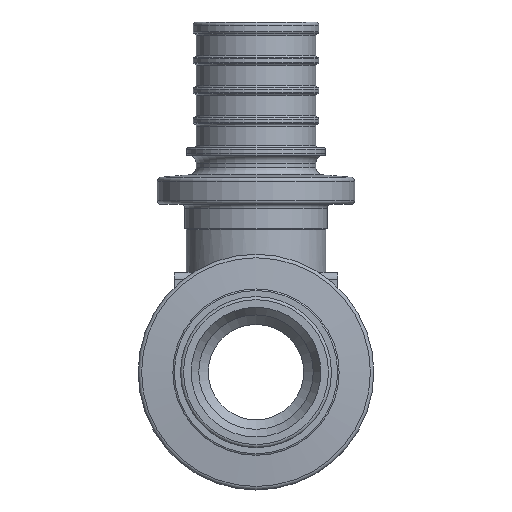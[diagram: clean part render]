
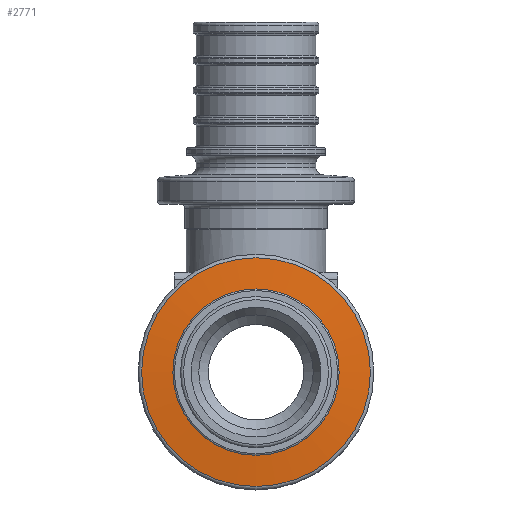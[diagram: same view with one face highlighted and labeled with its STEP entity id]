
A CAD part, front view. The second image highlights one B-rep face of the part: STEP entity #2771.
In plain terms, the highlighted conical face has half-angle 85 degrees and reference radius 12.653 mm.
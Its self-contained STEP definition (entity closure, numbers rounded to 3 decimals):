
#2771=ADVANCED_FACE('',(#6223,#6225),#6227,.T.);
#6223=FACE_BOUND('',#6224,.T.);
#6224=EDGE_LOOP('',(#9270,#9271));
#6225=FACE_OUTER_BOUND('',#6226,.T.);
#6226=EDGE_LOOP('',(#9272));
#6227=CONICAL_SURFACE('',#6228,12.653,1.484);
#6228=AXIS2_PLACEMENT_3D('',#6229,#6230,#6231);
#6229=CARTESIAN_POINT('',(0.,-24.195,0.));
#6230=DIRECTION('',(0.,1.,0.));
#6231=DIRECTION('',(0.,0.,-1.));
#9270=ORIENTED_EDGE('',*,*,#10329,.T.);
#9271=ORIENTED_EDGE('',*,*,#10330,.T.);
#9272=ORIENTED_EDGE('',*,*,#10326,.T.);
#10326=EDGE_CURVE('',#11814,#11814,#11815,.T.);
#10329=EDGE_CURVE('',#11820,#11821,#11822,.F.);
#10330=EDGE_CURVE('',#11821,#11820,#11823,.F.);
#11814=VERTEX_POINT('',#15891);
#11815=CIRCLE('',#15892,14.994);
#11820=VERTEX_POINT('',#15906);
#11821=VERTEX_POINT('',#15907);
#11822=CIRCLE('',#15908,10.313);
#11823=CIRCLE('',#15912,10.313);
#15891=CARTESIAN_POINT('',(0.,-23.99,14.994));
#15892=AXIS2_PLACEMENT_3D('',#15893,#15894,#15895);
#15893=CARTESIAN_POINT('',(0.,-23.99,0.));
#15894=DIRECTION('',(0.,-1.,0.));
#15895=DIRECTION('',(0.,0.,1.));
#15906=CARTESIAN_POINT('',(10.313,-24.399,0.));
#15907=CARTESIAN_POINT('',(0.,-24.399,10.313));
#15908=AXIS2_PLACEMENT_3D('',#15909,#15910,#15911);
#15909=CARTESIAN_POINT('',(0.,-24.399,0.));
#15910=DIRECTION('',(0.,-1.,0.));
#15911=DIRECTION('',(0.,0.,1.));
#15912=AXIS2_PLACEMENT_3D('',#15913,#15914,#15915);
#15913=CARTESIAN_POINT('',(0.,-24.399,0.));
#15914=DIRECTION('',(0.,-1.,0.));
#15915=DIRECTION('',(1.,0.,0.));
